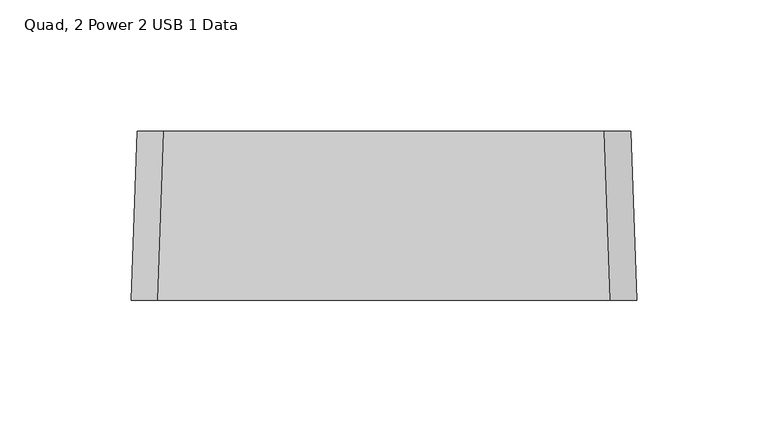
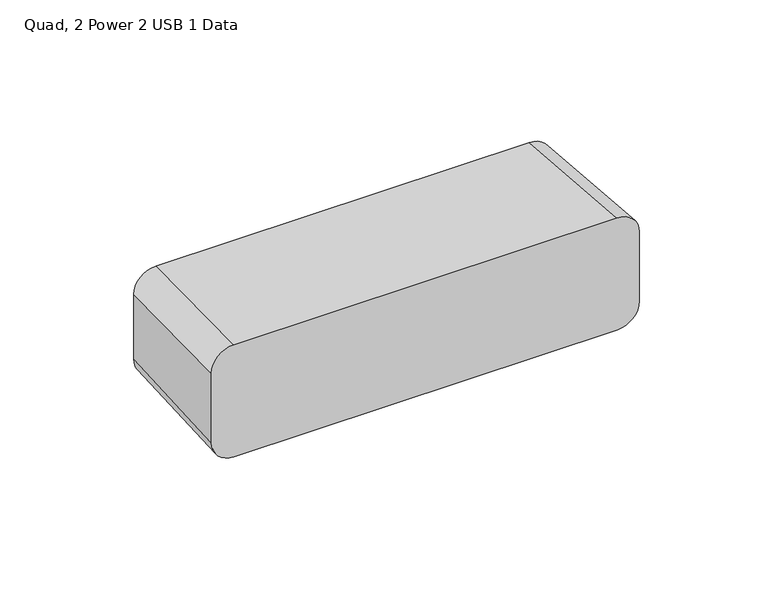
"""IFC4 building model written with IfcOpenShell, lengths in millimetres: proxy geometry, Accessory-Power_Cube-Teknion-EPWRH-Altos_Landscape-R2021 : Quad, 2 Power 2 USB 1 Data."""

from ifc_helpers import new_model, si_unit, point, frame, origin, place, context, project, spatial, circle_curve, trimmed, source, transform, mapped, element, save
from ifc_brep_helpers import plane_surface, extruded_surface, advanced_brep


def quad_2_power_2_usb_1_data_bfb4347e(model_context):
    return source(origin(), model_context, "Body", "AdvancedBrep", [
        advanced_brep(
        [(96.04375, -121.025, 1109.8349345), (85.9966533, -121.025, 1119.8820313), (-86.0226563, -121.025, 1119.8820313), (-96.04375, -121.025, 1109.8609375), (-96.04375, -121.025, 1076.8210938), (-86.0226563, -121.025, 1066.8), (86.0226562, -121.025, 1066.8), (96.04375, -121.025, 1076.8210938), (93.7825311, -56.775, 1107.5489345), (93.7825311, -56.775, 1076.8210938), (83.7614374, -56.775, 1066.8), (-83.7614374, -56.775, 1066.8), (-93.7825311, -56.775, 1076.8210938), (-93.7825311, -56.775, 1107.5749375), (-83.7614374, -56.775, 1117.5960312), (83.7354344, -56.775, 1117.5960313)],
        [
            (0, 1, circle_curve(frame((85.9966533, -121.025, 1109.8349345), z_axis=(0.0, -1.0, 0.0), x_axis=(1.0, 0.0, 0.0)), 10.0470967)),
            (1, 2),
            (2, 3, circle_curve(frame((-86.0226563, -121.025, 1109.8609375), z_axis=(0.0, -1.0, 0.0), x_axis=(1.0, 0.0, 0.0)), 10.0210938)),
            (3, 4),
            (4, 5, circle_curve(frame((-86.0226563, -121.025, 1076.8210938), z_axis=(0.0, -1.0, 0.0), x_axis=(1.0, 0.0, 0.0)), 10.0210938)),
            (5, 6),
            (6, 7, circle_curve(frame((86.0226562, -121.025, 1076.8210938), z_axis=(0.0, -1.0, 0.0), x_axis=(1.0, 0.0, 0.0)), 10.0210938)),
            (7, 0),
            (8, 9),
            (9, 10, circle_curve(frame((83.7614374, -56.775, 1076.8210938), z_axis=(0.0, 1.0, 0.0), x_axis=(1.0, 0.0, 0.0)), 10.0210938)),
            (10, 11),
            (11, 12, circle_curve(frame((-83.7614374, -56.775, 1076.8210938), z_axis=(0.0, 1.0, 0.0), x_axis=(1.0, 0.0, 0.0)), 10.0210938)),
            (12, 13),
            (13, 14, circle_curve(frame((-83.7614374, -56.775, 1107.5749375), z_axis=(0.0, 1.0, 0.0), x_axis=(1.0, 0.0, 0.0)), 10.0210938)),
            (14, 15),
            (15, 8, circle_curve(frame((83.7354344, -56.775, 1107.5489345), z_axis=(0.0, 1.0, 0.0), x_axis=(1.0, 0.0, 0.0)), 10.0470967)),
            (15, 1),
            (0, 8),
            (14, 2),
            (13, 3),
            (12, 4),
            (11, 5),
            (10, 6),
            (9, 7),
        ],
        [
            plane_surface(frame((-0.0032504, -121.025, 1093.3377653), z_axis=(0.0, -1.0, 0.0), x_axis=(0.0, 0.0, 1.0))),
            plane_surface(frame((-0.0032504, -56.775, 1092.1947653), z_axis=(0.0, 1.0, 0.0), x_axis=(0.0, 0.0, 1.0))),
            extruded_surface(trimmed(circle_curve(frame((83.7354344, -56.775, 1107.5489345), z_axis=(0.0, -1.0, 0.0), x_axis=(1.0, 0.0, 0.0)), 10.0470967), [point((93.7825311, -56.775, 1107.5489345))], [point((83.7354344, -56.775, 1117.5960313))], True, "CARTESIAN"), (2.261218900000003, -64.25, 2.285999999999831), 64.33040810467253),
            plane_surface(frame((-0.0130015, -56.775, 1117.5960313), z_axis=(0.0, 0.03555726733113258, 0.9993676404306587), x_axis=(-1.0, 0.0, 0.0))),
            extruded_surface(trimmed(circle_curve(frame((-83.7614374, -56.775, 1107.5749375), z_axis=(0.0, -1.0, 0.0), x_axis=(1.0, 0.0, 0.0)), 10.0210938), [point((-83.7614374, -56.775, 1117.5960312))], [point((-93.7825311, -56.775, 1107.5749375))], True, "CARTESIAN"), (-2.2612188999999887, -64.25, 2.286000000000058), 64.33040810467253),
            plane_surface(frame((-93.7825311, -56.775, 1092.1980156), z_axis=(-0.9993812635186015, 0.03517229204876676, 0.0), x_axis=(0.0, 0.0, -1.0))),
            extruded_surface(trimmed(circle_curve(frame((-83.7614374, -56.775, 1076.8210938), z_axis=(0.0, -1.0, 0.0), x_axis=(1.0, 0.0, 0.0)), 10.0210938), [point((-93.7825311, -56.775, 1076.8210938))], [point((-83.7614374, -56.775, 1066.8))], True, "CARTESIAN"), (-2.2612188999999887, -64.25, 0.0), 64.28977843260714),
            plane_surface(frame((0.0, -56.775, 1066.8), z_axis=(0.0, 0.0, -1.0), x_axis=(1.0, 0.0, 0.0))),
            extruded_surface(trimmed(circle_curve(frame((83.7614374, -56.775, 1076.8210938), z_axis=(0.0, -1.0, 0.0), x_axis=(1.0, 0.0, 0.0)), 10.0210938), [point((83.7614374, -56.775, 1066.8))], [point((93.7825311, -56.775, 1076.8210938))], True, "CARTESIAN"), (2.2612187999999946, -64.25, 0.0), 64.2897784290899),
            plane_surface(frame((93.7825311, -56.775, 1092.1850141), z_axis=(0.9993812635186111, 0.03517229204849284, 0.0), x_axis=(0.0, 0.0, 1.0))),
        ],
        [
            (0, [[1, 2, 3, 4, 5, 6, 7, 8]]),
            (1, [[9, 10, 11, 12, 13, 14, 15, 16]]),
            (2, [[-16, 17, -1, 18]]),
            (3, [[-15, 19, -2, -17]]),
            (4, [[-14, 20, -3, -19]]),
            (5, [[-13, 21, -4, -20]]),
            (6, [[-12, 22, -5, -21]]),
            (7, [[-11, 23, -6, -22]]),
            (8, [[-10, 24, -7, -23]]),
            (9, [[-9, -18, -8, -24]]),
        ],
    ),
    ])


if __name__ == "__main__":
    model = new_model("IFC4")
    model_context = context("Model", 3, world=origin())
    ifc_project = project(units=[si_unit("LENGTHUNIT", "METRE", prefix="MILLI")], contexts=[model_context])
    site = spatial("IfcSite", under=ifc_project)
    building = spatial("IfcBuilding", under=site)
    placement = place(None, origin())
    quad_2_power_2_usb_1_data_shape = quad_2_power_2_usb_1_data_bfb4347e(model_context)
    element("IfcBuildingElementProxy", 1, Name="Accessory-Power_Cube-Teknion-EPWRH-Altos_Landscape-R2021 : Quad, 2 Power 2 USB 1 Data", ObjectType="Accessory-Power_Cube-Teknion-EPWRH-Altos_Landscape-R2021 : Quad, 2 Power 2 USB 1 Data", at=placement, inside=building, context=model_context, shape_type="MappedRepresentation", body=[
        mapped(quad_2_power_2_usb_1_data_shape, transform((0.0, 0.0, 0.0), x_axis=(1.0, 0.0, 0.0), y_axis=(0.0, 1.0, 0.0), z_axis=(0.0, 0.0, 1.0))),
    ])
    save(model, "model.ifc")
